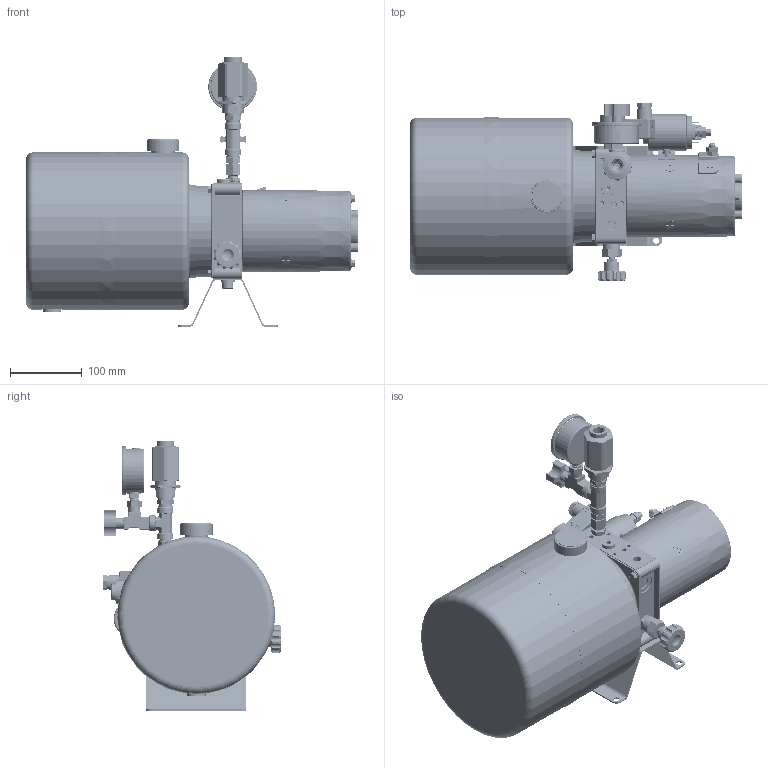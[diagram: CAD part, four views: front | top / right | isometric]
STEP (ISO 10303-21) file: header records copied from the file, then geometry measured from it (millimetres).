
FILE_DESCRIPTION(/* description */ (''),/* implementation_level */ '2;1');
FILE_NAME(/* name */ 'C:\Users\stolbov\Documents\Inventor\!Хлам\PPC-KV-S_Lift010-2,2-24DC-220-4,8.stp',/* time_stamp */ '2019-05-28T15:52:34+03:00',/* author */ ('stolbov'),/* organization */ (''),/* preprocessor_version */ 'ST-DEVELOPER v18',/* originating_system */ 'Autodesk Inventor 2020',/* authorisation */ '');
FILE_SCHEMA (('AUTOMOTIVE_DESIGN { 1 0 10303 214 3 1 1 }'));
Products named in the file (1): Деталь6
Bounding box: 464.06 x 249.48 x 376.3 mm (x, y, z)
Volume: 2012465.4 mm3; surface area: 1025534.6 mm2
Topology: 59 solids, 67 shells, 4019 faces, 10335 edges, 6750 vertices
Faces by surface type: plane 1695, cylinder 1465, cone 335, torus 261, bspline 239, sphere 24
Full cylindrical faces by diameter (mm): 0.2 x1, 2 x2, 2.667 x2, 3 x1, 4 x4, 4.134 x8, 4.14 x2, 4.917 x36, 5 x7, 5.3 x2, 5.5 x4, 5.88 x1, 6 x6, 6.5 x4, 6.647 x20, 7.3 x1, 7.5 x5, 7.938 x7, 8 x14, 8.376 x4, 8.5 x8, 8.701 x1, 9 x1, 9.285 x1, 9.3 x1, 9.5 x1, 9.8 x3, 9.91 x1, 10 x4, 10.5 x3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
Entity records: 164883 total; most frequent: CARTESIAN_POINT 61901, DIRECTION 21161, ORIENTED_EDGE 20584, EDGE_CURVE 10292, AXIS2_PLACEMENT_3D 8175, VERTEX_POINT 6750, LINE 4811, VECTOR 4811
